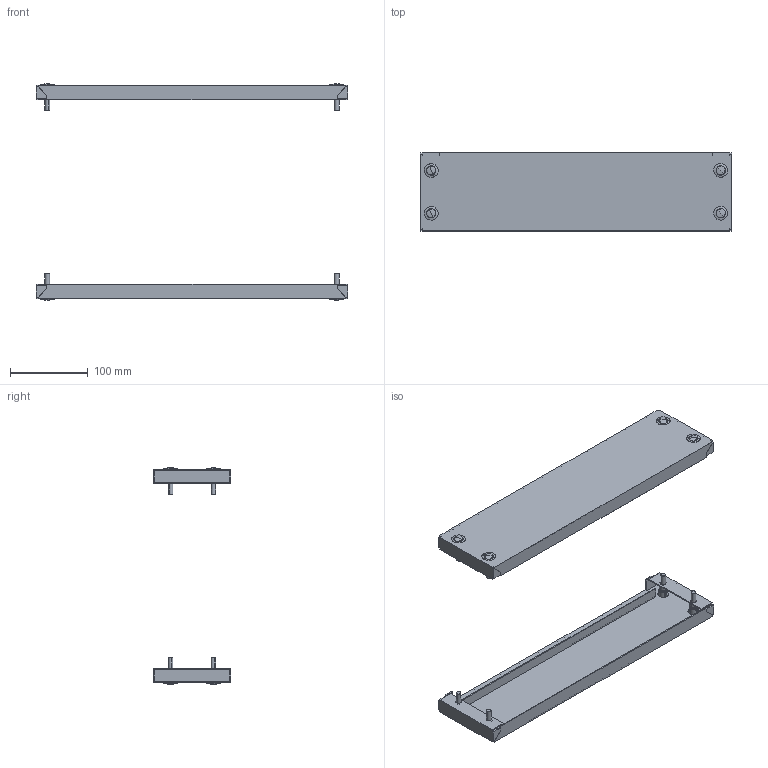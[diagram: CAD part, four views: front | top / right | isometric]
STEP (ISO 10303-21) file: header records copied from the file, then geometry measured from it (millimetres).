
FILE_DESCRIPTION (( 'STEP AP203' ), '1' );
FILE_NAME ('R5FZ4-300.STEP', '2025-06-18T08:28:02', ( '' ), ( '' ), 'SwSTEP 2.0', 'SolidWorks 2022', '' );
FILE_SCHEMA (( 'CONFIG_CONTROL_DESIGN' ));
Length unit declared in the file: millimetre
Products named in the file (5): 6 DIN 6798 A Zinc; M6x16 DIN 912 HX cl.4,8 Zinc_stright; R5FZ4-300; RB.1055.00.00.0 simple_-00 (400); Plug_11.5-13Д18ЧК_-00
Assembly tree (26 placements, depth 2):
  R5FZ4-300
    RB.1055.00.00.0 simple_-00 (400)  x2
    M6x16 DIN 912 HX cl.4,8 Zinc_stright  x8
    6 DIN 6798 A Zinc  x8
    Plug_11.5-13Д18ЧК_-00  x8
Bounding box: 400 x 100.05 x 278.5 mm (x, y, z)
Volume: 206091.3 mm3; surface area: 280424.9 mm2
Topology: 26 solids, 26 shells, 1196 faces, 3456 edges, 2112 vertices
Faces by surface type: plane 700, bspline 208, cylinder 128, cone 96, torus 48, sphere 16
Entity records: 9921 total; most frequent: CARTESIAN_POINT 2626, ORIENTED_EDGE 1352, DIRECTION 1188, EDGE_CURVE 676, LINE 448, VECTOR 448, VERTEX_POINT 444, AXIS2_PLACEMENT_3D 370
